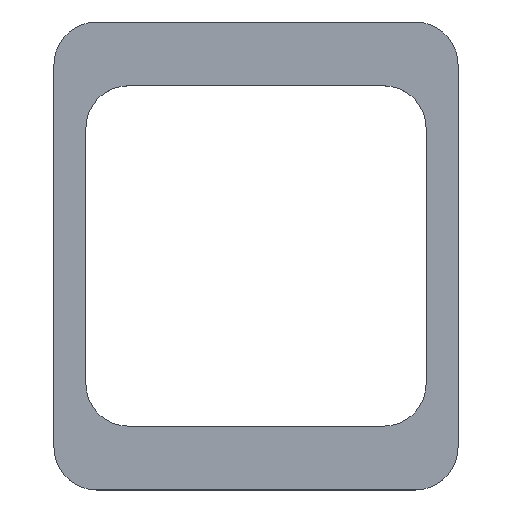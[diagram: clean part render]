
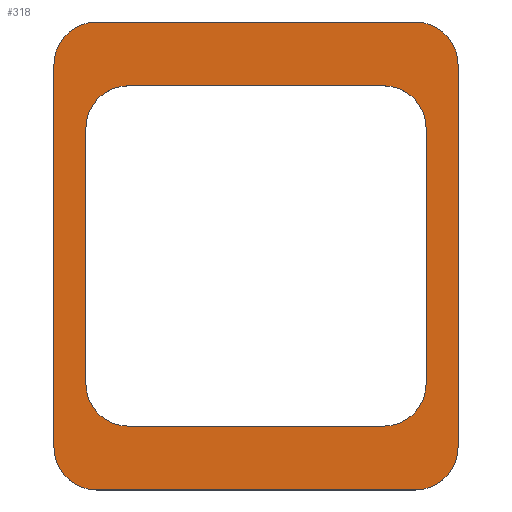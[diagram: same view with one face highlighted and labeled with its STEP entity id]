
A CAD part, top view. The second image highlights one B-rep face of the part: STEP entity #318.
In plain terms, the highlighted planar face has unit normal (0, 0, 1).
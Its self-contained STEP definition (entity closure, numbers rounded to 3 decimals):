
#173=CARTESIAN_POINT('',(0.,0.,0.));
#174=DIRECTION('',(0.,0.,1.));
#175=DIRECTION('',(1.,0.,0.));
#176=AXIS2_PLACEMENT_3D('',#173,#174,#175);
#177=PLANE('',#176);
#178=CARTESIAN_POINT('',(-1.708,5.07,0.));
#179=VERTEX_POINT('',#178);
#180=CARTESIAN_POINT('',(5.792,5.07,0.));
#181=VERTEX_POINT('',#180);
#182=CARTESIAN_POINT('',(-1.708,5.07,0.));
#183=DIRECTION('',(1.,0.,0.));
#184=VECTOR('',#183,7.5);
#185=LINE('',#182,#184);
#186=EDGE_CURVE('',#179,#181,#185,.T.);
#187=ORIENTED_EDGE('',*,*,#186,.F.);
#188=CARTESIAN_POINT('',(-2.708,4.07,0.));
#189=VERTEX_POINT('',#188);
#190=CARTESIAN_POINT('',(-1.708,4.07,0.));
#191=DIRECTION('',(0.,0.,1.));
#192=DIRECTION('',(1.,0.,-0.));
#193=AXIS2_PLACEMENT_3D('',#190,#191,#192);
#194=CIRCLE('',#193,1.);
#195=EDGE_CURVE('',#179,#189,#194,.T.);
#196=ORIENTED_EDGE('',*,*,#195,.T.);
#197=CARTESIAN_POINT('',(-2.708,-4.93,0.));
#198=VERTEX_POINT('',#197);
#199=CARTESIAN_POINT('',(-2.708,-4.93,0.));
#200=DIRECTION('',(-0.,1.,0.));
#201=VECTOR('',#200,9.);
#202=LINE('',#199,#201);
#203=EDGE_CURVE('',#198,#189,#202,.T.);
#204=ORIENTED_EDGE('',*,*,#203,.F.);
#205=CARTESIAN_POINT('',(-1.708,-5.93,0.));
#206=VERTEX_POINT('',#205);
#207=CARTESIAN_POINT('',(-1.708,-4.93,0.));
#208=DIRECTION('',(0.,0.,1.));
#209=DIRECTION('',(1.,0.,-0.));
#210=AXIS2_PLACEMENT_3D('',#207,#208,#209);
#211=CIRCLE('',#210,1.);
#212=EDGE_CURVE('',#198,#206,#211,.T.);
#213=ORIENTED_EDGE('',*,*,#212,.T.);
#214=CARTESIAN_POINT('',(5.792,-5.93,0.));
#215=VERTEX_POINT('',#214);
#216=CARTESIAN_POINT('',(5.792,-5.93,0.));
#217=DIRECTION('',(-1.,-0.,0.));
#218=VECTOR('',#217,7.5);
#219=LINE('',#216,#218);
#220=EDGE_CURVE('',#215,#206,#219,.T.);
#221=ORIENTED_EDGE('',*,*,#220,.F.);
#222=CARTESIAN_POINT('',(6.792,-4.93,0.));
#223=VERTEX_POINT('',#222);
#224=CARTESIAN_POINT('',(5.792,-4.93,0.));
#225=DIRECTION('',(0.,0.,1.));
#226=DIRECTION('',(1.,0.,-0.));
#227=AXIS2_PLACEMENT_3D('',#224,#225,#226);
#228=CIRCLE('',#227,1.);
#229=EDGE_CURVE('',#215,#223,#228,.T.);
#230=ORIENTED_EDGE('',*,*,#229,.T.);
#231=CARTESIAN_POINT('',(6.792,4.07,0.));
#232=VERTEX_POINT('',#231);
#233=CARTESIAN_POINT('',(6.792,4.07,0.));
#234=DIRECTION('',(0.,-1.,0.));
#235=VECTOR('',#234,9.);
#236=LINE('',#233,#235);
#237=EDGE_CURVE('',#232,#223,#236,.T.);
#238=ORIENTED_EDGE('',*,*,#237,.F.);
#239=CARTESIAN_POINT('',(5.792,4.07,0.));
#240=DIRECTION('',(0.,0.,1.));
#241=DIRECTION('',(1.,0.,-0.));
#242=AXIS2_PLACEMENT_3D('',#239,#240,#241);
#243=CIRCLE('',#242,1.);
#244=EDGE_CURVE('',#232,#181,#243,.T.);
#245=ORIENTED_EDGE('',*,*,#244,.T.);
#246=EDGE_LOOP('',(#187,#196,#204,#213,#221,#230,#238,#245));
#247=FACE_BOUND('',#246,.T.);
#248=CARTESIAN_POINT('',(-1.958,-3.43,0.));
#249=VERTEX_POINT('',#248);
#250=CARTESIAN_POINT('',(-1.958,2.57,0.));
#251=VERTEX_POINT('',#250);
#252=CARTESIAN_POINT('',(-1.958,-3.43,0.));
#253=DIRECTION('',(-0.,1.,0.));
#254=VECTOR('',#253,6.);
#255=LINE('',#252,#254);
#256=EDGE_CURVE('',#249,#251,#255,.T.);
#257=ORIENTED_EDGE('',*,*,#256,.T.);
#258=CARTESIAN_POINT('',(-0.958,3.57,0.));
#259=VERTEX_POINT('',#258);
#260=CARTESIAN_POINT('',(-0.958,2.57,0.));
#261=DIRECTION('',(-0.,-0.,-1.));
#262=DIRECTION('',(1.,0.,-0.));
#263=AXIS2_PLACEMENT_3D('',#260,#261,#262);
#264=CIRCLE('',#263,1.);
#265=EDGE_CURVE('',#251,#259,#264,.T.);
#266=ORIENTED_EDGE('',*,*,#265,.T.);
#267=CARTESIAN_POINT('',(5.042,3.57,0.));
#268=VERTEX_POINT('',#267);
#269=CARTESIAN_POINT('',(-0.958,3.57,0.));
#270=DIRECTION('',(1.,0.,0.));
#271=VECTOR('',#270,6.);
#272=LINE('',#269,#271);
#273=EDGE_CURVE('',#259,#268,#272,.T.);
#274=ORIENTED_EDGE('',*,*,#273,.T.);
#275=CARTESIAN_POINT('',(6.042,2.57,0.));
#276=VERTEX_POINT('',#275);
#277=CARTESIAN_POINT('',(5.042,2.57,0.));
#278=DIRECTION('',(-0.,-0.,-1.));
#279=DIRECTION('',(1.,0.,-0.));
#280=AXIS2_PLACEMENT_3D('',#277,#278,#279);
#281=CIRCLE('',#280,1.);
#282=EDGE_CURVE('',#268,#276,#281,.T.);
#283=ORIENTED_EDGE('',*,*,#282,.T.);
#284=CARTESIAN_POINT('',(6.042,-3.43,0.));
#285=VERTEX_POINT('',#284);
#286=CARTESIAN_POINT('',(6.042,2.57,0.));
#287=DIRECTION('',(0.,-1.,0.));
#288=VECTOR('',#287,6.);
#289=LINE('',#286,#288);
#290=EDGE_CURVE('',#276,#285,#289,.T.);
#291=ORIENTED_EDGE('',*,*,#290,.T.);
#292=CARTESIAN_POINT('',(5.042,-4.43,0.));
#293=VERTEX_POINT('',#292);
#294=CARTESIAN_POINT('',(5.042,-3.43,0.));
#295=DIRECTION('',(-0.,-0.,-1.));
#296=DIRECTION('',(1.,0.,-0.));
#297=AXIS2_PLACEMENT_3D('',#294,#295,#296);
#298=CIRCLE('',#297,1.);
#299=EDGE_CURVE('',#285,#293,#298,.T.);
#300=ORIENTED_EDGE('',*,*,#299,.T.);
#301=CARTESIAN_POINT('',(-0.958,-4.43,0.));
#302=VERTEX_POINT('',#301);
#303=CARTESIAN_POINT('',(5.042,-4.43,0.));
#304=DIRECTION('',(-1.,-0.,0.));
#305=VECTOR('',#304,6.);
#306=LINE('',#303,#305);
#307=EDGE_CURVE('',#293,#302,#306,.T.);
#308=ORIENTED_EDGE('',*,*,#307,.T.);
#309=CARTESIAN_POINT('',(-0.958,-3.43,0.));
#310=DIRECTION('',(-0.,-0.,-1.));
#311=DIRECTION('',(1.,0.,-0.));
#312=AXIS2_PLACEMENT_3D('',#309,#310,#311);
#313=CIRCLE('',#312,1.);
#314=EDGE_CURVE('',#302,#249,#313,.T.);
#315=ORIENTED_EDGE('',*,*,#314,.T.);
#316=EDGE_LOOP('',(#257,#266,#274,#283,#291,#300,#308,#315));
#317=FACE_BOUND('',#316,.T.);
#318=ADVANCED_FACE('',(#247,#317),#177,.T.);
